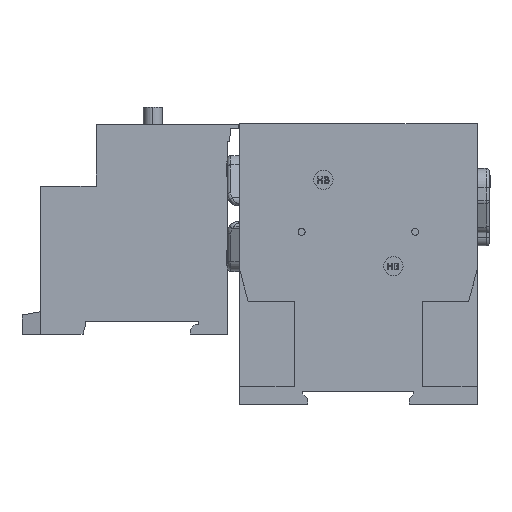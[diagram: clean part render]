
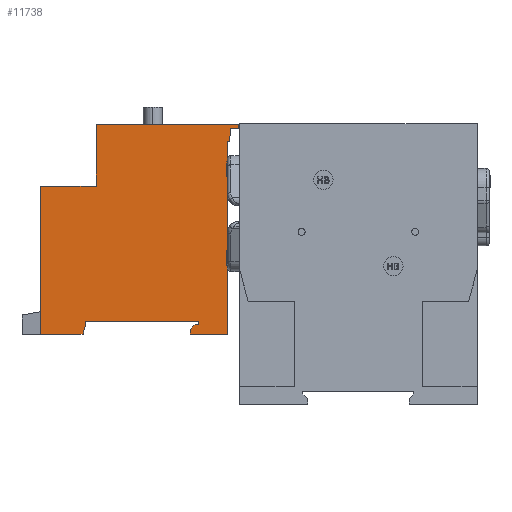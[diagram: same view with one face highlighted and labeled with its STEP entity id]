
A CAD part, top view. The second image highlights one B-rep face of the part: STEP entity #11738.
In plain terms, the highlighted planar face has unit normal (0, 0, 1) as drawn and (1, 0, 0) by its records, which use the part's own axes.
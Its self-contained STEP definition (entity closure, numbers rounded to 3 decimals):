
#786 = DIRECTION ( 'NONE',  ( 0., -1., 0. ) ) ;
#923 = ORIENTED_EDGE ( 'NONE', *, *, #11138, .F. ) ;
#1078 = VERTEX_POINT ( 'NONE', #21304 ) ;
#1301 = EDGE_CURVE ( 'NONE', #2977, #18713, #20172, .T. ) ;
#1367 = LINE ( 'NONE', #47655, #78214 ) ;
#1420 = DIRECTION ( 'NONE',  ( 0., 0., -1. ) ) ;
#1604 = CARTESIAN_POINT ( 'NONE',  ( -7.154, 134.264, -28.862 ) ) ;
#2345 = EDGE_CURVE ( 'NONE', #7883, #20856, #20182, .T. ) ;
#2393 = VERTEX_POINT ( 'NONE', #18703 ) ;
#2736 = ORIENTED_EDGE ( 'NONE', *, *, #14030, .F. ) ;
#2977 = VERTEX_POINT ( 'NONE', #66995 ) ;
#3190 = EDGE_CURVE ( 'NONE', #20976, #30058, #59857, .T. ) ;
#4635 = ORIENTED_EDGE ( 'NONE', *, *, #70150, .F. ) ;
#4675 = LINE ( 'NONE', #15717, #68931 ) ;
#4863 = EDGE_CURVE ( 'NONE', #19751, #39876, #27629, .T. ) ;
#5235 = VERTEX_POINT ( 'NONE', #58216 ) ;
#6019 = CARTESIAN_POINT ( 'NONE',  ( -7.154, 130.264, -61.662 ) ) ;
#6958 = CARTESIAN_POINT ( 'NONE',  ( -7.154, 103.94, -58.212 ) ) ;
#7224 = VERTEX_POINT ( 'NONE', #28168 ) ;
#7883 = VERTEX_POINT ( 'NONE', #50279 ) ;
#8381 = VECTOR ( 'NONE', #1420, 1000. ) ;
#8607 = DIRECTION ( 'NONE',  ( -1., 0., 0. ) ) ;
#9567 = EDGE_CURVE ( 'NONE', #7224, #7883, #61315, .T. ) ;
#11138 = EDGE_CURVE ( 'NONE', #31202, #45093, #4675, .T. ) ;
#11738 = ADVANCED_FACE ( 'NONE', ( #37750 ), #70559, .F. ) ;
#13038 = ORIENTED_EDGE ( 'NONE', *, *, #1301, .F. ) ;
#13279 = VECTOR ( 'NONE', #25703, 1000. ) ;
#13877 = CARTESIAN_POINT ( 'NONE',  ( -7.154, 130.264, -61.662 ) ) ;
#13909 = CARTESIAN_POINT ( 'NONE',  ( -7.154, 88.164, -45.442 ) ) ;
#14030 = EDGE_CURVE ( 'NONE', #18713, #68604, #15221, .T. ) ;
#15221 = LINE ( 'NONE', #6958, #13279 ) ;
#15487 = CARTESIAN_POINT ( 'NONE',  ( -7.154, 134.264, -75.512 ) ) ;
#15717 = CARTESIAN_POINT ( 'NONE',  ( -7.154, 103.94, -17.312 ) ) ;
#16006 = CARTESIAN_POINT ( 'NONE',  ( -7.154, 70.264, -45.442 ) ) ;
#18042 = CARTESIAN_POINT ( 'NONE',  ( -7.154, 74.164, -17.312 ) ) ;
#18486 = ORIENTED_EDGE ( 'NONE', *, *, #51465, .F. ) ;
#18630 = VECTOR ( 'NONE', #59431, 1000. ) ;
#18703 = CARTESIAN_POINT ( 'NONE',  ( -7.154, 74.164, -16.662 ) ) ;
#18713 = VERTEX_POINT ( 'NONE', #79892 ) ;
#18829 = CARTESIAN_POINT ( 'NONE',  ( -7.154, 70.264, -13.812 ) ) ;
#19392 = ORIENTED_EDGE ( 'NONE', *, *, #73598, .F. ) ;
#19751 = VERTEX_POINT ( 'NONE', #45922 ) ;
#20172 = LINE ( 'NONE', #13909, #36678 ) ;
#20182 = LINE ( 'NONE', #42834, #49259 ) ;
#20288 = ORIENTED_EDGE ( 'NONE', *, *, #3190, .F. ) ;
#20806 = ORIENTED_EDGE ( 'NONE', *, *, #58947, .F. ) ;
#20856 = VERTEX_POINT ( 'NONE', #13877 ) ;
#20976 = VERTEX_POINT ( 'NONE', #33945 ) ;
#21304 = CARTESIAN_POINT ( 'NONE',  ( -7.154, 131.264, -27.362 ) ) ;
#21588 = DIRECTION ( 'NONE',  ( 0., 0., -1. ) ) ;
#23389 = ORIENTED_EDGE ( 'NONE', *, *, #74923, .F. ) ;
#25568 = CARTESIAN_POINT ( 'NONE',  ( -7.154, 131.264, -26.362 ) ) ;
#25703 = DIRECTION ( 'NONE',  ( 0., -1., 0. ) ) ;
#27541 = EDGE_CURVE ( 'NONE', #47096, #5235, #79311, .T. ) ;
#27629 = LINE ( 'NONE', #29124, #46069 ) ;
#28168 = CARTESIAN_POINT ( 'NONE',  ( -7.154, 131.264, -26.362 ) ) ;
#28530 = ORIENTED_EDGE ( 'NONE', *, *, #2345, .F. ) ;
#29022 = CARTESIAN_POINT ( 'NONE',  ( -7.154, 134.264, -28.862 ) ) ;
#29124 = CARTESIAN_POINT ( 'NONE',  ( -7.154, 68.864, -13.812 ) ) ;
#29140 = CARTESIAN_POINT ( 'NONE',  ( -7.154, 134.264, -45.442 ) ) ;
#29343 = ORIENTED_EDGE ( 'NONE', *, *, #9567, .F. ) ;
#29600 = LINE ( 'NONE', #50075, #44165 ) ;
#30054 = DIRECTION ( 'NONE',  ( 0., 0., 1. ) ) ;
#30058 = VERTEX_POINT ( 'NONE', #15487 ) ;
#31202 = VERTEX_POINT ( 'NONE', #18042 ) ;
#32489 = CARTESIAN_POINT ( 'NONE',  ( -7.154, 134.264, -45.442 ) ) ;
#32928 = DIRECTION ( 'NONE',  ( 0., -1., 0. ) ) ;
#33945 = CARTESIAN_POINT ( 'NONE',  ( -7.154, 134.264, -62.305 ) ) ;
#34476 = DIRECTION ( 'NONE',  ( 0., 1., 0. ) ) ;
#36500 = EDGE_CURVE ( 'NONE', #30058, #2977, #57914, .T. ) ;
#36678 = VECTOR ( 'NONE', #57343, 1000. ) ;
#37074 = LINE ( 'NONE', #16006, #18630 ) ;
#37653 = VECTOR ( 'NONE', #60958, 1000. ) ;
#37680 = EDGE_CURVE ( 'NONE', #68604, #19751, #1367, .T. ) ;
#37750 = FACE_OUTER_BOUND ( 'NONE', #74429, .T. ) ;
#38597 = LINE ( 'NONE', #29140, #69701 ) ;
#39876 = VERTEX_POINT ( 'NONE', #18829 ) ;
#40449 = LINE ( 'NONE', #73909, #71558 ) ;
#40911 = VECTOR ( 'NONE', #786, 1000. ) ;
#41401 = VECTOR ( 'NONE', #65558, 1000. ) ;
#42834 = CARTESIAN_POINT ( 'NONE',  ( -7.154, 130.264, -45.442 ) ) ;
#43412 = ORIENTED_EDGE ( 'NONE', *, *, #27541, .F. ) ;
#44165 = VECTOR ( 'NONE', #74833, 1000. ) ;
#45093 = VERTEX_POINT ( 'NONE', #53607 ) ;
#45769 = CARTESIAN_POINT ( 'NONE',  ( -7.154, 103.94, -45.442 ) ) ;
#45922 = CARTESIAN_POINT ( 'NONE',  ( -7.154, 68.864, -13.812 ) ) ;
#46011 = VECTOR ( 'NONE', #21588, 1000. ) ;
#46069 = VECTOR ( 'NONE', #79385, 1000. ) ;
#47096 = VERTEX_POINT ( 'NONE', #29022 ) ;
#47655 = CARTESIAN_POINT ( 'NONE',  ( -7.154, 68.864, -45.442 ) ) ;
#49124 = DIRECTION ( 'NONE',  ( 0., 0., 1. ) ) ;
#49259 = VECTOR ( 'NONE', #61027, 1000. ) ;
#49457 = DIRECTION ( 'NONE',  ( 0., 1., 0. ) ) ;
#50075 = CARTESIAN_POINT ( 'NONE',  ( -7.154, 132.764, -28.862 ) ) ;
#50279 = CARTESIAN_POINT ( 'NONE',  ( -7.154, 130.264, -26.362 ) ) ;
#51200 = EDGE_CURVE ( 'NONE', #64472, #20976, #70702, .T. ) ;
#51465 = EDGE_CURVE ( 'NONE', #45093, #47096, #38597, .T. ) ;
#52044 = DIRECTION ( 'NONE',  ( 0., -1., 0. ) ) ;
#52382 = ORIENTED_EDGE ( 'NONE', *, *, #67943, .F. ) ;
#52891 = VECTOR ( 'NONE', #55156, 1000. ) ;
#53027 = CARTESIAN_POINT ( 'NONE',  ( -7.154, 103.94, -75.512 ) ) ;
#53607 = CARTESIAN_POINT ( 'NONE',  ( -7.154, 134.264, -17.312 ) ) ;
#53941 = EDGE_CURVE ( 'NONE', #2393, #31202, #79118, .T. ) ;
#54688 = CARTESIAN_POINT ( 'NONE',  ( -7.154, 131.864, -61.662 ) ) ;
#55142 = ORIENTED_EDGE ( 'NONE', *, *, #4863, .F. ) ;
#55156 = DIRECTION ( 'NONE',  ( 0., 0.996, -0.087 ) ) ;
#57343 = DIRECTION ( 'NONE',  ( 0., 0., 1. ) ) ;
#57914 = LINE ( 'NONE', #53027, #41401 ) ;
#58216 = CARTESIAN_POINT ( 'NONE',  ( -7.154, 132.764, -28.862 ) ) ;
#58947 = EDGE_CURVE ( 'NONE', #5235, #1078, #29600, .T. ) ;
#59431 = DIRECTION ( 'NONE',  ( 0., 0., -1. ) ) ;
#59857 = LINE ( 'NONE', #32489, #8381 ) ;
#60553 = CARTESIAN_POINT ( 'NONE',  ( -7.154, 70.264, -16.321 ) ) ;
#60958 = DIRECTION ( 'NONE',  ( 0., 0.966, -0.259 ) ) ;
#61027 = DIRECTION ( 'NONE',  ( 0., 0., -1. ) ) ;
#61315 = LINE ( 'NONE', #25568, #40911 ) ;
#62353 = ORIENTED_EDGE ( 'NONE', *, *, #36500, .F. ) ;
#63640 = ORIENTED_EDGE ( 'NONE', *, *, #37680, .F. ) ;
#63707 = ORIENTED_EDGE ( 'NONE', *, *, #51200, .F. ) ;
#64472 = VERTEX_POINT ( 'NONE', #80564 ) ;
#65050 = CARTESIAN_POINT ( 'NONE',  ( -7.154, 74.164, -16.662 ) ) ;
#65558 = DIRECTION ( 'NONE',  ( 0., -1., 0. ) ) ;
#66995 = CARTESIAN_POINT ( 'NONE',  ( -7.154, 88.164, -75.512 ) ) ;
#67943 = EDGE_CURVE ( 'NONE', #20856, #64472, #73312, .T. ) ;
#68604 = VERTEX_POINT ( 'NONE', #68961 ) ;
#68931 = VECTOR ( 'NONE', #34476, 1000. ) ;
#68961 = CARTESIAN_POINT ( 'NONE',  ( -7.154, 68.864, -58.212 ) ) ;
#69425 = VECTOR ( 'NONE', #49457, 1000. ) ;
#69701 = VECTOR ( 'NONE', #78859, 1000. ) ;
#70150 = EDGE_CURVE ( 'NONE', #39876, #79261, #37074, .T. ) ;
#70559 = PLANE ( 'NONE',  #76579 ) ;
#70702 = LINE ( 'NONE', #54688, #37653 ) ;
#71405 = LINE ( 'NONE', #73943, #52891 ) ;
#71558 = VECTOR ( 'NONE', #49124, 1000. ) ;
#73312 = LINE ( 'NONE', #6019, #69425 ) ;
#73598 = EDGE_CURVE ( 'NONE', #1078, #7224, #40449, .T. ) ;
#73909 = CARTESIAN_POINT ( 'NONE',  ( -7.154, 131.264, -27.362 ) ) ;
#73943 = CARTESIAN_POINT ( 'NONE',  ( -7.154, 70.264, -16.321 ) ) ;
#74429 = EDGE_LOOP ( 'NONE', ( #20288, #63707, #52382, #28530, #29343, #19392, #20806, #43412, #18486, #923, #80377, #23389, #4635, #55142, #63640, #2736, #13038, #62353 ) ) ;
#74833 = DIRECTION ( 'NONE',  ( 0., -0.707, 0.707 ) ) ;
#74923 = EDGE_CURVE ( 'NONE', #79261, #2393, #71405, .T. ) ;
#76579 = AXIS2_PLACEMENT_3D ( 'NONE', #45769, #8607, #52044 ) ;
#77370 = VECTOR ( 'NONE', #32928, 1000. ) ;
#78214 = VECTOR ( 'NONE', #30054, 1000. ) ;
#78859 = DIRECTION ( 'NONE',  ( 0., 0., -1. ) ) ;
#79118 = LINE ( 'NONE', #65050, #46011 ) ;
#79261 = VERTEX_POINT ( 'NONE', #60553 ) ;
#79311 = LINE ( 'NONE', #1604, #77370 ) ;
#79385 = DIRECTION ( 'NONE',  ( 0., 1., 0. ) ) ;
#79892 = CARTESIAN_POINT ( 'NONE',  ( -7.154, 88.164, -58.212 ) ) ;
#80377 = ORIENTED_EDGE ( 'NONE', *, *, #53941, .F. ) ;
#80564 = CARTESIAN_POINT ( 'NONE',  ( -7.154, 131.864, -61.662 ) ) ;
